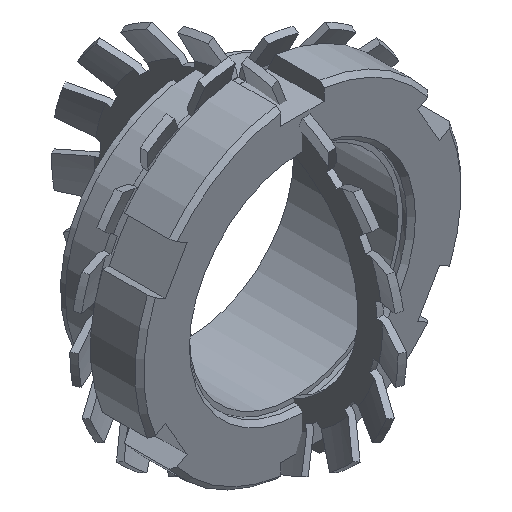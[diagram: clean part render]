
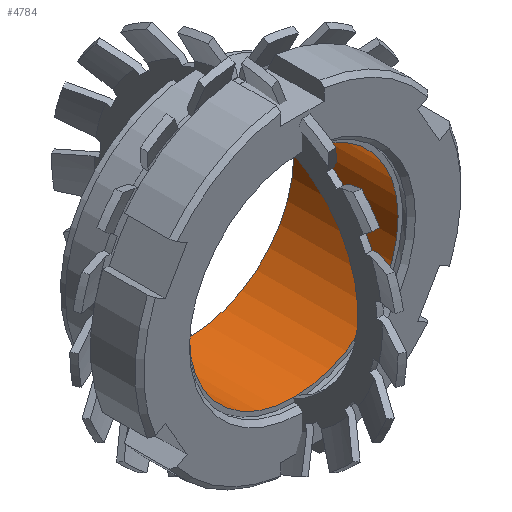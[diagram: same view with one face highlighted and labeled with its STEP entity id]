
A CAD part, isometric view. The second image highlights one B-rep face of the part: STEP entity #4784.
In plain terms, the highlighted cylindrical face has radius 24 mm (diameter 48 mm), a partial arc.
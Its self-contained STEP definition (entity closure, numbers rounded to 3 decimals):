
#4784 = ADVANCED_FACE( '', ( #6460 ), #6461, .F. );
#6460 = FACE_OUTER_BOUND( '', #6666, .T. );
#6461 = CYLINDRICAL_SURFACE( '', #6667, 24. );
#6666 = EDGE_LOOP( '', ( #7064, #7065, #7066, #7067 ) );
#6667 = AXIS2_PLACEMENT_3D( '', #7068, #7069, #7070 );
#7064 = ORIENTED_EDGE( '', *, *, #7402, .F. );
#7065 = ORIENTED_EDGE( '', *, *, #7403, .F. );
#7066 = ORIENTED_EDGE( '', *, *, #7404, .T. );
#7067 = ORIENTED_EDGE( '', *, *, #7405, .T. );
#7068 = CARTESIAN_POINT( '', ( 0., -60., 0. ) );
#7069 = DIRECTION( '', ( 0., 1., 0. ) );
#7070 = DIRECTION( '', ( 0., 0., -1. ) );
#7402 = EDGE_CURVE( '', #7600, #7601, #7602, .T. );
#7403 = EDGE_CURVE( '', #7603, #7600, #7604, .T. );
#7404 = EDGE_CURVE( '', #7603, #7605, #7606, .T. );
#7405 = EDGE_CURVE( '', #7605, #7601, #7607, .T. );
#7600 = VERTEX_POINT( '', #7964 );
#7601 = VERTEX_POINT( '', #7965 );
#7602 = LINE( '', #7966, #7967 );
#7603 = VERTEX_POINT( '', #7968 );
#7604 = CIRCLE( '', #7969, 24. );
#7605 = VERTEX_POINT( '', #7970 );
#7606 = LINE( '', #7971, #7972 );
#7607 = CIRCLE( '', #7973, 24. );
#7964 = CARTESIAN_POINT( '', ( 4., 11.25, 23.664 ) );
#7965 = CARTESIAN_POINT( '', ( 4., -12.75, 23.664 ) );
#7966 = CARTESIAN_POINT( '', ( 4., -60., 23.664 ) );
#7967 = VECTOR( '', #8132, 1000. );
#7968 = CARTESIAN_POINT( '', ( -4., 11.25, 23.664 ) );
#7969 = AXIS2_PLACEMENT_3D( '', #8133, #8134, #8135 );
#7970 = CARTESIAN_POINT( '', ( -4., -12.75, 23.664 ) );
#7971 = CARTESIAN_POINT( '', ( -4., -60., 23.664 ) );
#7972 = VECTOR( '', #8136, 1000. );
#7973 = AXIS2_PLACEMENT_3D( '', #8137, #8138, #8139 );
#8132 = DIRECTION( '', ( 0., -1., 0. ) );
#8133 = CARTESIAN_POINT( '', ( 0., 11.25, 0. ) );
#8134 = DIRECTION( '', ( 0., -1., 0. ) );
#8135 = DIRECTION( '', ( 0., 0., -1. ) );
#8136 = DIRECTION( '', ( 0., -1., 0. ) );
#8137 = CARTESIAN_POINT( '', ( 0., -12.75, 0. ) );
#8138 = DIRECTION( '', ( 0., -1., 0. ) );
#8139 = DIRECTION( '', ( 0., 0., -1. ) );
